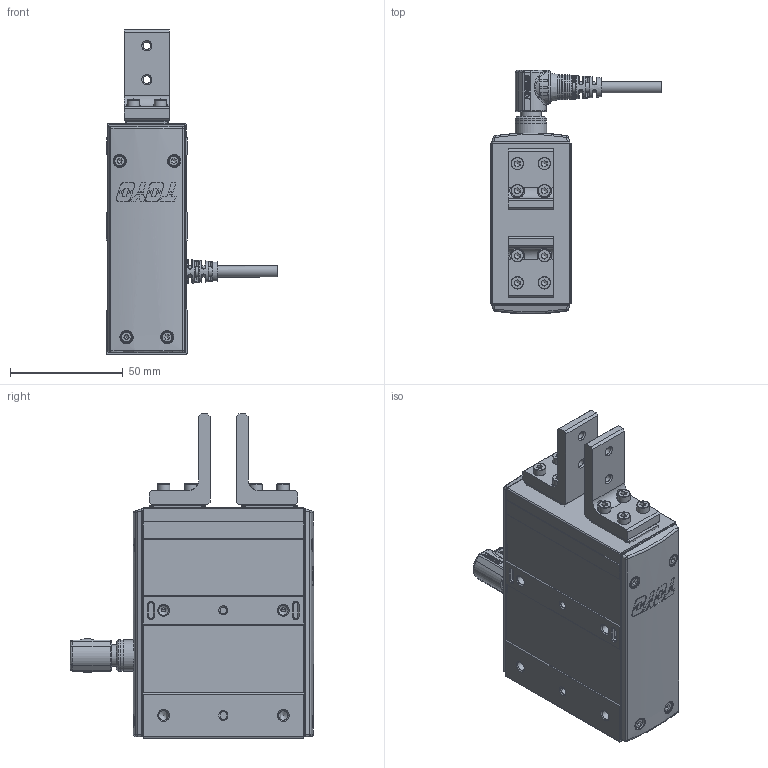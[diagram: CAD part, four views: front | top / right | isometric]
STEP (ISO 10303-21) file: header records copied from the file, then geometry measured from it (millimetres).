
FILE_DESCRIPTION(/* description */ ('STEP AP214'),/* implementation_level */ '2;1');
FILE_NAME(/* name */ 'D:\2025.02.25 帶電匯整給泊舟\CHZ2-N14-WR.stp',/* time_stamp */ '2025-02-26T10:48:17+08:00',/* author */ ('T10033'),/* organization */ (''),/* preprocessor_version */ 'ST-DEVELOPER v18.1',/* originating_system */ 'Autodesk Inventor 2020',/* authorisation */ '');
FILE_SCHEMA (('CONFIG_CONTROL_DESIGN'));
Products named in the file (8): CHZ2-S14; 慶陞金屬頭; 62TW34T6SE34_Shrinkwrap_1; 6T3Y7E45_Shrinkwrap_1; M12-14PIN 線端90度接頭-05中繼線; 43Y345YED45R; 12021-000016; socket head cap screw_iso_ISO 4762 M3 x 12 - 12C
Assembly tree (12 placements, depth 3):
  CHZ2-S14
    慶陞金屬頭
    62TW34T6SE34_Shrinkwrap_1
    6T3Y7E45_Shrinkwrap_1  x2
    M12-14PIN 線端90度接頭-05中繼線
    43Y345YED45R  x2
      12021-000016
      socket head cap screw_iso_ISO 4762 M3 x 12 - 12C
Bounding box: 76.01 x 107.8 x 143.5 mm (x, y, z)
Volume: 300904.1 mm3; surface area: 69238.8 mm2
Topology: 47 solids, 51 shells, 2924 faces, 7848 edges, 5145 vertices
Faces by surface type: plane 1676, cylinder 544, cone 402, bspline 157, torus 125, sphere 20
Full cylindrical faces by diameter (mm): 0.6 x14, 0.65 x14, 1 x18, 2.05 x16, 2.5 x20, 2.7 x8, 3 x17, 3.2 x8, 3.3 x4, 4.2 x12, 4.5 x8, 4.7 x4, 5 x1, 5.5 x10, 6.8 x2, 8 x1, 8.9 x1, 9.5 x2, 9.6 x1, 10.5 x2, 10.9 x1, 11 x2, 11.2 x1, 11.25 x1, 12 x1, 13 x1, 13.8 x1, 14 x2, 14.4 x1
Entity records: 115843 total; most frequent: CARTESIAN_POINT 47029, DIRECTION 13932, ORIENTED_EDGE 13868, EDGE_CURVE 6942, AXIS2_PLACEMENT_3D 5140, VERTEX_POINT 4581, LINE 3652, VECTOR 3652
